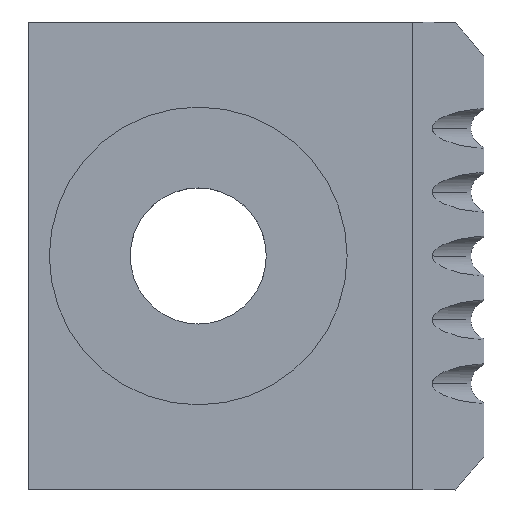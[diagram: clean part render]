
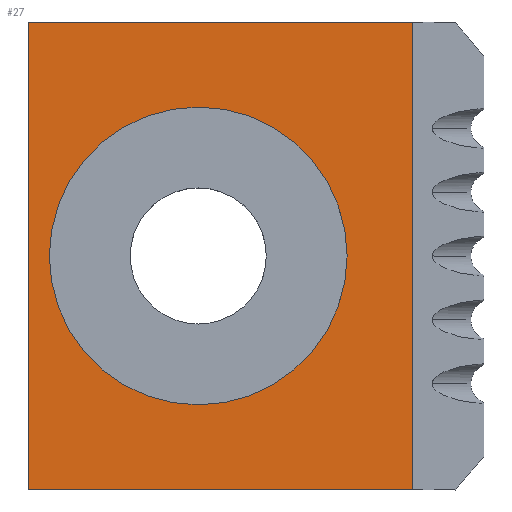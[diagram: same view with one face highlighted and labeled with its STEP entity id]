
A CAD part, top view. The second image highlights one B-rep face of the part: STEP entity #27.
In plain terms, the highlighted planar face has unit normal (0, 0, 1).
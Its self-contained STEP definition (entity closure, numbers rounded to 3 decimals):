
#16=FACE_BOUND('',#84,.T.);
#27=ADVANCED_FACE('',(#54,#16),#457,.T.);
#54=FACE_OUTER_BOUND('',#83,.T.);
#83=EDGE_LOOP('',(#159,#160,#161,#162));
#84=EDGE_LOOP('',(#163));
#159=ORIENTED_EDGE('',*,*,#272,.F.);
#160=ORIENTED_EDGE('',*,*,#247,.F.);
#161=ORIENTED_EDGE('',*,*,#273,.F.);
#162=ORIENTED_EDGE('',*,*,#283,.T.);
#163=ORIENTED_EDGE('',*,*,#265,.T.);
#247=EDGE_CURVE('',#391,#392,#328,.T.);
#265=EDGE_CURVE('',#415,#415,#322,.T.);
#272=EDGE_CURVE('',#392,#418,#349,.T.);
#273=EDGE_CURVE('',#420,#391,#350,.T.);
#283=EDGE_CURVE('',#420,#418,#360,.T.);
#322=CIRCLE('',#579,3.5);
#328=B_SPLINE_CURVE_WITH_KNOTS('',1,(#703,#704),.UNSPECIFIED.,.F.,.F.,(2,
2),(0.,11.),.UNSPECIFIED.);
#349=B_SPLINE_CURVE_WITH_KNOTS('',1,(#771,#772),.UNSPECIFIED.,.F.,.F.,(2,
2),(0.,9.04),.UNSPECIFIED.);
#350=B_SPLINE_CURVE_WITH_KNOTS('',1,(#773,#774),.UNSPECIFIED.,.F.,.F.,(2,
2),(0.,9.04),.UNSPECIFIED.);
#360=B_SPLINE_CURVE_WITH_KNOTS('',1,(#821,#822),.UNSPECIFIED.,.F.,.F.,(2,
2),(-11.,0.),.UNSPECIFIED.);
#391=VERTEX_POINT('',#653);
#392=VERTEX_POINT('',#654);
#415=VERTEX_POINT('',#677);
#418=VERTEX_POINT('',#680);
#420=VERTEX_POINT('',#682);
#457=PLANE('',#562);
#562=AXIS2_PLACEMENT_3D('',#634,#596,$);
#579=AXIS2_PLACEMENT_3D($,#761,#613,#614);
#596=DIRECTION('',(0.,0.,1.));
#613=DIRECTION('',(0.,0.,-1.));
#614=DIRECTION('',(-1.,0.,0.));
#634=CARTESIAN_POINT('',(-0.761,12.112,2.2));
#653=CARTESIAN_POINT('',(-10.717,0.,2.204));
#654=CARTESIAN_POINT('',(-10.717,11.,2.204));
#677=CARTESIAN_POINT('',(-10.217,5.5,2.204));
#680=CARTESIAN_POINT('',(-1.677,11.,2.201));
#682=CARTESIAN_POINT('',(-1.677,0.,2.201));
#703=CARTESIAN_POINT('',(-10.717,0.,2.204));
#704=CARTESIAN_POINT('',(-10.717,11.,2.204));
#761=CARTESIAN_POINT('',(-6.717,5.5,2.202));
#771=CARTESIAN_POINT('',(-10.717,11.,2.204));
#772=CARTESIAN_POINT('',(-1.677,11.,2.201));
#773=CARTESIAN_POINT('',(-1.677,0.,2.201));
#774=CARTESIAN_POINT('',(-10.717,0.,2.204));
#821=CARTESIAN_POINT('',(-1.677,0.,2.201));
#822=CARTESIAN_POINT('',(-1.677,11.,2.201));
